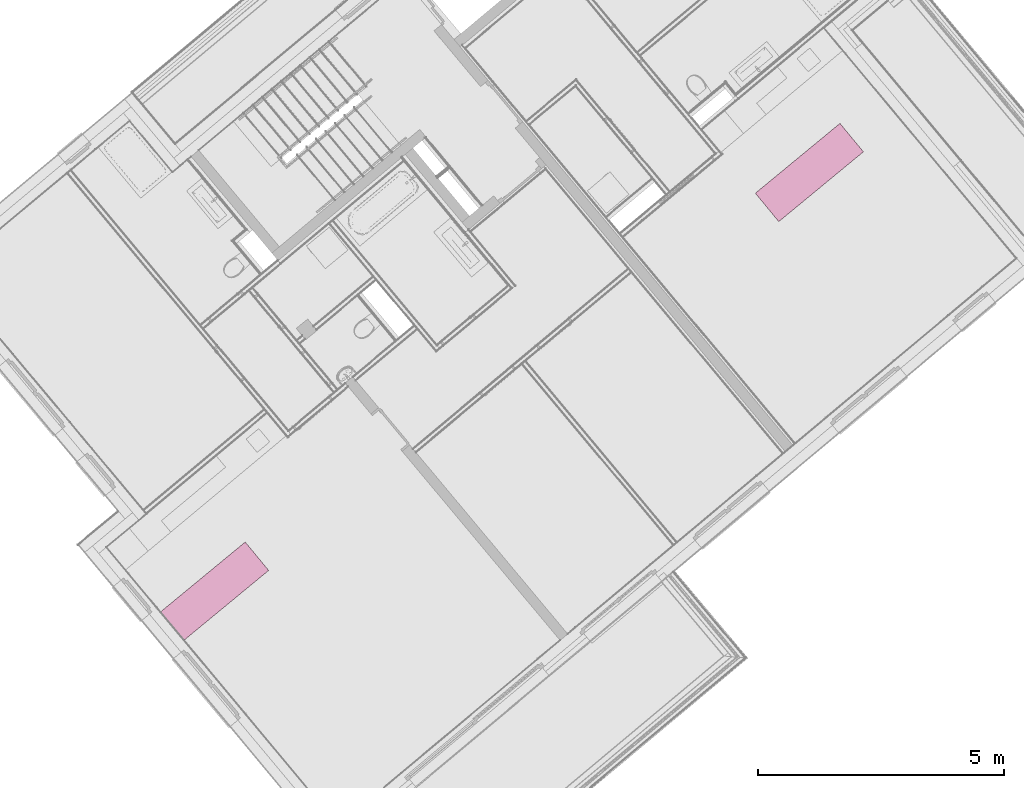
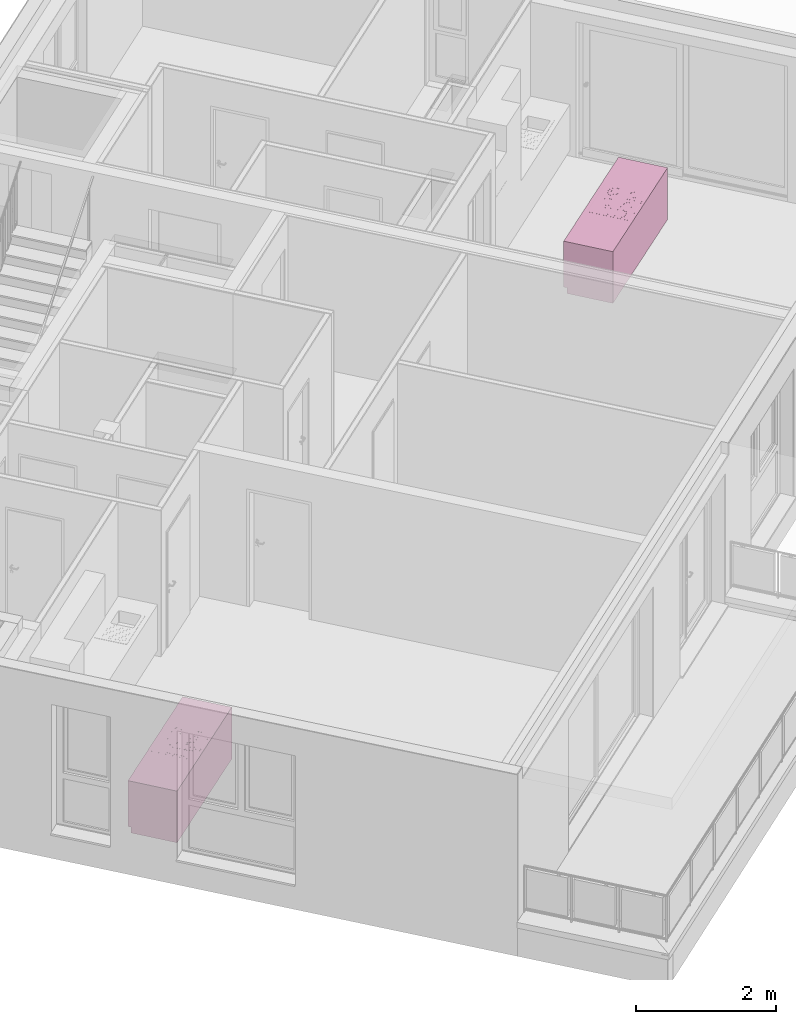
# One storey, part 51 of 53: 2 furniture elements.
"""IFC4 building model written with IfcOpenShell, lengths in metres."""

from ifc_helpers import new_model, entity, si_unit, converted_unit, derived_unit, direction, frame, origin_with_axes, place, context, subcontext, project, spatial, polygons, source, transform, mapped, type_object, element, save


model = new_model("IFC4")

# Units and contexts
model_context = context("Model", 3, precision=1e-05, world=origin_with_axes(), true_north=direction((0.0, 1.0)))
body_context = subcontext(model_context, "Body", "Model", "MODEL_VIEW")
ifc_project = project(units=[si_unit("LENGTHUNIT", "METRE"), si_unit("AREAUNIT", "SQUARE_METRE"), si_unit("VOLUMEUNIT", "CUBIC_METRE"), converted_unit("PLANEANGLEUNIT", "DEGREE", entity("IfcPlaneAngleMeasure", 0.0174532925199), si_unit("PLANEANGLEUNIT", "RADIAN"), dimensions=[0, 0, 0, 0, 0, 0, 0]), converted_unit("TIMEUNIT", "Year", entity("IfcTimeMeasure", 31556926.0), si_unit("TIMEUNIT", "SECOND"), dimensions=[0, 0, 1, 0, 0, 0, 0]), si_unit("MASSUNIT", "GRAM", prefix="KILO"), si_unit("THERMODYNAMICTEMPERATUREUNIT", "DEGREE_CELSIUS"), si_unit("LUMINOUSINTENSITYUNIT", "LUMEN"), si_unit("ENERGYUNIT", "JOULE", prefix="MEGA"), derived_unit("THERMALCONDUCTANCEUNIT", [(si_unit("POWERUNIT", "WATT"), 1), (si_unit("LENGTHUNIT", "METRE"), -1), (si_unit("THERMODYNAMICTEMPERATUREUNIT", "KELVIN"), -1)]), derived_unit("SPECIFICHEATCAPACITYUNIT", [(si_unit("ENERGYUNIT", "JOULE"), 1), (si_unit("MASSUNIT", "GRAM", prefix="KILO"), -1), (si_unit("THERMODYNAMICTEMPERATUREUNIT", "KELVIN"), -1)]), derived_unit("MASSDENSITYUNIT", [(si_unit("MASSUNIT", "GRAM", prefix="KILO"), 1), (si_unit("VOLUMEUNIT", "CUBIC_METRE"), -1)])], contexts=[model_context])

# Site, building, storey, space
site_placement = place(None, frame((-0.00153261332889, -0.00661245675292, 0.0), z_axis=(0.0, 0.0, 1.0), x_axis=(1.0, 0.0, 0.0)))
site = spatial("IfcSite", under=ifc_project, at=site_placement, Name="Gelände", CompositionType="ELEMENT")
building_placement = place(site_placement, origin_with_axes())
building = spatial("IfcBuilding", under=site, at=building_placement, Name="Gebäude", CompositionType="ELEMENT")
storey_placement = place(building_placement, frame((0.0, 0.0, 2.74), z_axis=(0.0, 0.0, 1.0), x_axis=(1.0, 0.0, 0.0)))
storey = spatial("IfcBuildingStorey", under=building, at=storey_placement, Name="OG1", CompositionType="ELEMENT", Elevation=2.74)
space_1_placement = place(storey_placement, frame((12.8063322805, 20.3315828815, 0.22), z_axis=(0.0, 0.0, 1.0), x_axis=(-0.641209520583, 0.767365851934, 0.0)))
space_1 = spatial("IfcSpace", under=storey, at=space_1_placement, CompositionType="ELEMENT", PredefinedType="NOTDEFINED")

# Furniture
furniture_type = type_object("IfcFurnitureType", Name="Konzeptküche 26", AssemblyPlace="NOTDEFINED", PredefinedType="NOTDEFINED")
shared_shape = source(origin_with_axes(), body_context, "Body", "Tessellation", [
    polygons([(0.451386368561, 0.0111886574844, 0.0), (2.6840690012, -0.00300580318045, 0.0), (2.6840690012, -0.00300580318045, 0.1), (0.451386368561, 0.0111886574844, 0.1), (0.455836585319, 0.711174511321, 0.0), (2.68851921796, 0.696980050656, 0.0), (2.68851921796, 0.696980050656, 0.1), (0.455836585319, 0.711174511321, 0.1)], [[[1, 2, 3, 4]], [[1, 5, 6, 2]], [[2, 6, 7, 3]], [[4, 3, 7, 8]], [[5, 1, 4, 8]], [[6, 5, 8, 7]]], closed=True),
    polygons([(0.451386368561, 0.0111886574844, 0.85), (2.6840690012, -0.00300580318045, 0.85), (2.6840690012, -0.00300580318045, 0.9), (0.451386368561, 0.0111886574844, 0.9), (0.456154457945, 0.76117350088, 0.85), (2.68883709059, 0.746979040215, 0.85), (2.68883709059, 0.746979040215, 0.9), (0.456154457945, 0.76117350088, 0.9)], [[[1, 2, 3, 4]], [[1, 5, 6, 2]], [[2, 6, 7, 3]], [[4, 3, 7, 8]], [[5, 1, 4, 8]], [[6, 5, 8, 7]]], closed=True),
    polygons([(0.451386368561, 0.0111886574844, 0.1), (2.6840690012, -0.00300580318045, 0.1), (2.6840690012, -0.00300580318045, 0.85), (0.451386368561, 0.0111886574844, 0.85), (0.456154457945, 0.76117350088, 0.1), (2.68883709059, 0.746979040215, 0.1), (2.68883709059, 0.746979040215, 0.85), (0.456154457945, 0.76117350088, 0.85)], [[[1, 2, 3, 4]], [[1, 5, 6, 2]], [[2, 6, 7, 3]], [[4, 3, 7, 8]], [[5, 1, 4, 8]], [[6, 5, 8, 7]]], closed=True),
    polygons([(2.01007115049, 0.701293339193, 0.9), (2.00593880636, 0.0513064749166, 0.9), (1.25595396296, 0.0560745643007, 0.9), (1.26008630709, 0.706061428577, 0.9), (2.01007115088, 0.70129333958, 0.9008), (2.00593880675, 0.0513064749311, 0.9008), (1.25595396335, 0.0560745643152, 0.9008), (1.26008630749, 0.706061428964, 0.9008), (2.00322248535, 0.694531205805, 0.901999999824), (1.99917667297, 0.0581551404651, 0.901999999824), (1.26280262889, 0.0628366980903, 0.901999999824), (1.26684844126, 0.69921276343, 0.901999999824)], [[[1, 2, 3, 4]], [[2, 1, 5, 6]], [[3, 2, 6, 7]], [[4, 3, 7, 8]], [[1, 4, 8, 5]], [[6, 5, 9, 10]], [[7, 6, 10, 11]], [[8, 7, 11, 12]], [[5, 8, 12, 9]], [[11, 10, 9, 12]]], closed=True),
    polygons([(1.95268579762, 0.208298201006, 0.902), (1.94734355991, 0.236077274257, 0.902), (1.94734355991, 0.236077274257, 0.903), (1.95268579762, 0.208298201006, 0.903), (1.9469907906, 0.180589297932, 0.902), (1.93112555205, 0.157168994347, 0.902), (1.9075054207, 0.141602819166, 0.902), (1.87972634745, 0.136260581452, 0.902), (1.85201744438, 0.141955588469, 0.902), (1.82859714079, 0.157820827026, 0.902), (1.81303096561, 0.181440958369, 0.902), (1.8076887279, 0.20922003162, 0.902), (1.81338373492, 0.236928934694, 0.902), (1.82924897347, 0.260349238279, 0.902), (1.85286910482, 0.275915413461, 0.902), (1.88064817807, 0.281257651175, 0.902), (1.90835708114, 0.275562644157, 0.902), (1.93177738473, 0.259697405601, 0.902), (1.94768589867, 0.208329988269, 0.902), (1.94271209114, 0.234193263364, 0.902), (1.92821944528, 0.256184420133, 0.902), (1.90641433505, 0.270955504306, 0.902), (1.8806163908, 0.276257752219, 0.902), (1.85475311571, 0.271283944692, 0.902), (1.83276195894, 0.256791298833, 0.902), (1.81799087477, 0.234986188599, 0.902), (1.81268862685, 0.209188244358, 0.902), (1.81766243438, 0.183324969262, 0.902), (1.83215508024, 0.161333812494, 0.902), (1.85396019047, 0.146562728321, 0.902), (1.87975813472, 0.141260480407, 0.902), (1.90562140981, 0.146234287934, 0.902), (1.92761256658, 0.160726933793, 0.902), (1.94238365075, 0.182532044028, 0.902), (1.93177738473, 0.259697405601, 0.903), (1.90835708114, 0.275562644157, 0.903), (1.88064817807, 0.281257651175, 0.903), (1.85286910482, 0.275915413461, 0.903), (1.82924897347, 0.260349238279, 0.903), (1.81338373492, 0.236928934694, 0.903), (1.8076887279, 0.20922003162, 0.903), (1.81303096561, 0.181440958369, 0.903), (1.82859714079, 0.157820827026, 0.903), (1.85201744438, 0.141955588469, 0.903), (1.87972634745, 0.136260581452, 0.903), (1.9075054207, 0.141602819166, 0.903), (1.93112555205, 0.157168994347, 0.903), (1.9469907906, 0.180589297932, 0.903), (1.94768589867, 0.208329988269, 0.903), (1.94238365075, 0.182532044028, 0.903), (1.92761256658, 0.160726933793, 0.903), (1.90562140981, 0.146234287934, 0.903), (1.87975813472, 0.141260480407, 0.903), (1.85396019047, 0.146562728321, 0.903), (1.83215508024, 0.161333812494, 0.903), (1.81766243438, 0.183324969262, 0.903), (1.81268862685, 0.209188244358, 0.903), (1.81799087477, 0.234986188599, 0.903), (1.83276195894, 0.256791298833, 0.903), (1.85475311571, 0.271283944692, 0.903), (1.8806163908, 0.276257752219, 0.903), (1.90641433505, 0.270955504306, 0.903), (1.92821944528, 0.256184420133, 0.903), (1.94271209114, 0.234193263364, 0.903)], [[[1, 2, 3, 4]], [[1, 5, 6, 7, 8, 9, 10, 11, 12, 13, 14, 15, 16, 17, 18, 2], [19, 20, 21, 22, 23, 24, 25, 26, 27, 28, 29, 30, 31, 32, 33, 34]], [[2, 18, 35, 3]], [[4, 3, 35, 36, 37, 38, 39, 40, 41, 42, 43, 44, 45, 46, 47, 48], [49, 50, 51, 52, 53, 54, 55, 56, 57, 58, 59, 60, 61, 62, 63, 64]], [[5, 1, 4, 48]], [[6, 5, 48, 47]], [[7, 6, 47, 46]], [[8, 7, 46, 45]], [[9, 8, 45, 44]], [[10, 9, 44, 43]], [[11, 10, 43, 42]], [[12, 11, 42, 41]], [[13, 12, 41, 40]], [[14, 13, 40, 39]], [[15, 14, 39, 38]], [[16, 15, 38, 37]], [[17, 16, 37, 36]], [[18, 17, 36, 35]], [[20, 19, 49, 64]], [[21, 20, 64, 63]], [[22, 21, 63, 62]], [[23, 22, 62, 61]], [[24, 23, 61, 60]], [[25, 24, 60, 59]], [[26, 25, 59, 58]], [[27, 26, 58, 57]], [[28, 27, 57, 56]], [[29, 28, 56, 55]], [[30, 29, 55, 54]], [[31, 30, 54, 53]], [[32, 31, 53, 52]], [[33, 32, 52, 51]], [[34, 33, 51, 50]], [[19, 34, 50, 49]]], closed=True),
    polygons([(1.9127590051, 0.495207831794, 0.902), (1.90833784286, 0.518197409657, 0.902), (1.90833784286, 0.518197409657, 0.903), (1.9127590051, 0.495207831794, 0.903), (1.90804589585, 0.472276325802, 0.902), (1.89491604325, 0.452894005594, 0.902), (1.87536834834, 0.44001165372, 0.902), (1.85237877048, 0.435590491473, 0.902), (1.82944726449, 0.440303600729, 0.902), (1.81006494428, 0.453433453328, 0.902), (1.7971825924, 0.472981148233, 0.902), (1.79276143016, 0.495970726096, 0.902), (1.79747453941, 0.518902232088, 0.902), (1.81060439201, 0.538284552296, 0.902), (1.83015208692, 0.551166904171, 0.902), (1.85314166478, 0.555588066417, 0.902), (1.87607317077, 0.550874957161, 0.902), (1.89545549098, 0.537745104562, 0.902), (1.90775910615, 0.495239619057, 0.902), (1.90370637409, 0.516313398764, 0.902), (1.89189755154, 0.534232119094, 0.902), (1.87413042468, 0.546267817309, 0.902), (1.85310987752, 0.550588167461, 0.902), (1.83203609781, 0.546535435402, 0.902), (1.81411737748, 0.53472661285, 0.902), (1.80208167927, 0.516959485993, 0.902), (1.79776132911, 0.495938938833, 0.902), (1.80181406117, 0.474865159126, 0.902), (1.81362288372, 0.456946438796, 0.902), (1.83139001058, 0.444910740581, 0.902), (1.85241055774, 0.440590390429, 0.902), (1.87348433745, 0.444643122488, 0.902), (1.89140305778, 0.45645194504, 0.902), (1.90343875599, 0.474219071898, 0.902), (1.89545549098, 0.537745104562, 0.903), (1.87607317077, 0.550874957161, 0.903), (1.85314166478, 0.555588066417, 0.903), (1.83015208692, 0.551166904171, 0.903), (1.81060439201, 0.538284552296, 0.903), (1.79747453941, 0.518902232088, 0.903), (1.79276143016, 0.495970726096, 0.903), (1.7971825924, 0.472981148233, 0.903), (1.81006494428, 0.453433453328, 0.903), (1.82944726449, 0.440303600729, 0.903), (1.85237877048, 0.435590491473, 0.903), (1.87536834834, 0.44001165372, 0.903), (1.89491604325, 0.452894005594, 0.903), (1.90804589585, 0.472276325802, 0.903), (1.90775910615, 0.495239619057, 0.903), (1.90343875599, 0.474219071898, 0.903), (1.89140305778, 0.45645194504, 0.903), (1.87348433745, 0.444643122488, 0.903), (1.85241055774, 0.440590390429, 0.903), (1.83139001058, 0.444910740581, 0.903), (1.81362288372, 0.456946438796, 0.903), (1.80181406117, 0.474865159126, 0.903), (1.79776132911, 0.495938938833, 0.903), (1.80208167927, 0.516959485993, 0.903), (1.81411737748, 0.53472661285, 0.903), (1.83203609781, 0.546535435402, 0.903), (1.85310987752, 0.550588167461, 0.903), (1.87413042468, 0.546267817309, 0.903), (1.89189755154, 0.534232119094, 0.903), (1.90370637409, 0.516313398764, 0.903)], [[[1, 2, 3, 4]], [[1, 5, 6, 7, 8, 9, 10, 11, 12, 13, 14, 15, 16, 17, 18, 2], [19, 20, 21, 22, 23, 24, 25, 26, 27, 28, 29, 30, 31, 32, 33, 34]], [[2, 18, 35, 3]], [[4, 3, 35, 36, 37, 38, 39, 40, 41, 42, 43, 44, 45, 46, 47, 48], [49, 50, 51, 52, 53, 54, 55, 56, 57, 58, 59, 60, 61, 62, 63, 64]], [[5, 1, 4, 48]], [[6, 5, 48, 47]], [[7, 6, 47, 46]], [[8, 7, 46, 45]], [[9, 8, 45, 44]], [[10, 9, 44, 43]], [[11, 10, 43, 42]], [[12, 11, 42, 41]], [[13, 12, 41, 40]], [[14, 13, 40, 39]], [[15, 14, 39, 38]], [[16, 15, 38, 37]], [[17, 16, 37, 36]], [[18, 17, 36, 35]], [[20, 19, 49, 64]], [[21, 20, 64, 63]], [[22, 21, 63, 62]], [[23, 22, 62, 61]], [[24, 23, 61, 60]], [[25, 24, 60, 59]], [[26, 25, 59, 58]], [[27, 26, 58, 57]], [[28, 27, 57, 56]], [[29, 28, 56, 55]], [[30, 29, 55, 54]], [[31, 30, 54, 53]], [[32, 31, 53, 52]], [[33, 32, 52, 51]], [[34, 33, 51, 50]], [[19, 34, 50, 49]]], closed=True),
    polygons([(1.95775809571, 0.494921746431, 0.902), (1.95002106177, 0.535153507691, 0.902), (1.95002106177, 0.535153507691, 0.903), (1.95775809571, 0.494921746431, 0.903), (1.94951015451, 0.454791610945, 0.902), (1.92653291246, 0.420872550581, 0.902), (1.89232444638, 0.3983284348, 0.902), (1.85209268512, 0.39059140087, 0.902), (1.81196254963, 0.398839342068, 0.902), (1.77804348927, 0.421816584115, 0.902), (1.75549937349, 0.456025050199, 0.902), (1.74776233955, 0.496256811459, 0.902), (1.75601028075, 0.536386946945, 0.902), (1.7789875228, 0.57030600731, 0.902), (1.81319598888, 0.59285012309, 0.902), (1.85342775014, 0.60058715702, 0.902), (1.89355788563, 0.592339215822, 0.902), (1.92747694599, 0.569361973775, 0.902), (1.95275819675, 0.494953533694, 0.902), (1.94538959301, 0.533269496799, 0.902), (1.92391900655, 0.565848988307, 0.902), (1.89161513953, 0.587732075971, 0.902), (1.85339596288, 0.595587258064, 0.902), (1.81507999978, 0.588218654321, 0.902), (1.78250050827, 0.566748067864, 0.902), (1.7606174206, 0.53444420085, 0.902), (1.75276223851, 0.496225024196, 0.902), (1.76013084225, 0.457909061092, 0.902), (1.78160142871, 0.425329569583, 0.902), (1.81390529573, 0.403446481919, 0.902), (1.85212447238, 0.395591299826, 0.902), (1.89044043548, 0.402959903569, 0.902), (1.92301992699, 0.424430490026, 0.902), (1.94490301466, 0.456734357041, 0.902), (1.92747694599, 0.569361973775, 0.903), (1.89355788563, 0.592339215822, 0.903), (1.85342775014, 0.60058715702, 0.903), (1.81319598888, 0.59285012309, 0.903), (1.7789875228, 0.57030600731, 0.903), (1.75601028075, 0.536386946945, 0.903), (1.74776233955, 0.496256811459, 0.903), (1.75549937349, 0.456025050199, 0.903), (1.77804348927, 0.421816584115, 0.903), (1.81196254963, 0.398839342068, 0.903), (1.85209268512, 0.39059140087, 0.903), (1.89232444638, 0.3983284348, 0.903), (1.92653291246, 0.420872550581, 0.903), (1.94951015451, 0.454791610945, 0.903), (1.95275819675, 0.494953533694, 0.903), (1.94490301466, 0.456734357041, 0.903), (1.92301992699, 0.424430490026, 0.903), (1.89044043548, 0.402959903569, 0.903), (1.85212447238, 0.395591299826, 0.903), (1.81390529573, 0.403446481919, 0.903), (1.78160142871, 0.425329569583, 0.903), (1.76013084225, 0.457909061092, 0.903), (1.75276223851, 0.496225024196, 0.903), (1.7606174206, 0.53444420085, 0.903), (1.78250050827, 0.566748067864, 0.903), (1.81507999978, 0.588218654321, 0.903), (1.85339596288, 0.595587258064, 0.903), (1.89161513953, 0.587732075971, 0.903), (1.92391900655, 0.565848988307, 0.903), (1.94538959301, 0.533269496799, 0.903)], [[[1, 2, 3, 4]], [[1, 5, 6, 7, 8, 9, 10, 11, 12, 13, 14, 15, 16, 17, 18, 2], [19, 20, 21, 22, 23, 24, 25, 26, 27, 28, 29, 30, 31, 32, 33, 34]], [[2, 18, 35, 3]], [[4, 3, 35, 36, 37, 38, 39, 40, 41, 42, 43, 44, 45, 46, 47, 48], [49, 50, 51, 52, 53, 54, 55, 56, 57, 58, 59, 60, 61, 62, 63, 64]], [[5, 1, 4, 48]], [[6, 5, 48, 47]], [[7, 6, 47, 46]], [[8, 7, 46, 45]], [[9, 8, 45, 44]], [[10, 9, 44, 43]], [[11, 10, 43, 42]], [[12, 11, 42, 41]], [[13, 12, 41, 40]], [[14, 13, 40, 39]], [[15, 14, 39, 38]], [[16, 15, 38, 37]], [[17, 16, 37, 36]], [[18, 17, 36, 35]], [[20, 19, 49, 64]], [[21, 20, 64, 63]], [[22, 21, 63, 62]], [[23, 22, 62, 61]], [[24, 23, 61, 60]], [[25, 24, 60, 59]], [[26, 25, 59, 58]], [[27, 26, 58, 57]], [[28, 27, 57, 56]], [[29, 28, 56, 55]], [[30, 29, 55, 54]], [[31, 30, 54, 53]], [[32, 31, 53, 52]], [[33, 32, 52, 51]], [[34, 33, 51, 50]], [[19, 34, 50, 49]]], closed=True),
    polygons([(1.67867067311, 0.206790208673, 0.902), (1.67351265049, 0.233611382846, 0.902), (1.67351265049, 0.233611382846, 0.903), (1.67867067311, 0.206790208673, 0.903), (1.67317204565, 0.180036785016, 0.902), (1.65785388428, 0.157424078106, 0.902), (1.63504824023, 0.142394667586, 0.902), (1.60822706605, 0.137236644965, 0.902), (1.5814736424, 0.142735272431, 0.902), (1.55886093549, 0.158053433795, 0.902), (1.54383152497, 0.180859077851, 0.902), (1.53867350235, 0.207680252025, 0.902), (1.54417212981, 0.234433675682, 0.902), (1.55949029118, 0.257046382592, 0.902), (1.58229593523, 0.272075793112, 0.902), (1.60911710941, 0.277233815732, 0.902), (1.63587053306, 0.271735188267, 0.902), (1.65848323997, 0.256417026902, 0.902), (1.67367077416, 0.206821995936, 0.902), (1.66888118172, 0.231727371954, 0.902), (1.65492530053, 0.252904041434, 0.902), (1.63392778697, 0.267128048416, 0.902), (1.60908532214, 0.272233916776, 0.902), (1.58417994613, 0.267444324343, 0.902), (1.56300327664, 0.253488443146, 0.902), (1.54877926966, 0.232490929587, 0.902), (1.5436734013, 0.207648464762, 0.902), (1.54846299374, 0.182743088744, 0.902), (1.56241887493, 0.161566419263, 0.902), (1.58341638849, 0.147342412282, 0.902), (1.60825885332, 0.142236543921, 0.902), (1.63316422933, 0.147026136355, 0.902), (1.65434089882, 0.160982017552, 0.902), (1.6685649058, 0.181979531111, 0.902), (1.65848323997, 0.256417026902, 0.903), (1.63587053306, 0.271735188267, 0.903), (1.60911710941, 0.277233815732, 0.903), (1.58229593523, 0.272075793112, 0.903), (1.55949029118, 0.257046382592, 0.903), (1.54417212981, 0.234433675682, 0.903), (1.53867350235, 0.207680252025, 0.903), (1.54383152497, 0.180859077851, 0.903), (1.55886093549, 0.158053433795, 0.903), (1.5814736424, 0.142735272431, 0.903), (1.60822706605, 0.137236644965, 0.903), (1.63504824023, 0.142394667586, 0.903), (1.65785388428, 0.157424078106, 0.903), (1.67317204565, 0.180036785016, 0.903), (1.67367077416, 0.206821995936, 0.903), (1.6685649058, 0.181979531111, 0.903), (1.65434089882, 0.160982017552, 0.903), (1.63316422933, 0.147026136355, 0.903), (1.60825885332, 0.142236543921, 0.903), (1.58341638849, 0.147342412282, 0.903), (1.56241887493, 0.161566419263, 0.903), (1.54846299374, 0.182743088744, 0.903), (1.5436734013, 0.207648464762, 0.903), (1.54877926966, 0.232490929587, 0.903), (1.56300327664, 0.253488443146, 0.903), (1.58417994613, 0.267444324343, 0.903), (1.60908532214, 0.272233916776, 0.903), (1.63392778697, 0.267128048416, 0.903), (1.65492530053, 0.252904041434, 0.903), (1.66888118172, 0.231727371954, 0.903)], [[[1, 2, 3, 4]], [[1, 5, 6, 7, 8, 9, 10, 11, 12, 13, 14, 15, 16, 17, 18, 2], [19, 20, 21, 22, 23, 24, 25, 26, 27, 28, 29, 30, 31, 32, 33, 34]], [[2, 18, 35, 3]], [[4, 3, 35, 36, 37, 38, 39, 40, 41, 42, 43, 44, 45, 46, 47, 48], [49, 50, 51, 52, 53, 54, 55, 56, 57, 58, 59, 60, 61, 62, 63, 64]], [[5, 1, 4, 48]], [[6, 5, 48, 47]], [[7, 6, 47, 46]], [[8, 7, 46, 45]], [[9, 8, 45, 44]], [[10, 9, 44, 43]], [[11, 10, 43, 42]], [[12, 11, 42, 41]], [[13, 12, 41, 40]], [[14, 13, 40, 39]], [[15, 14, 39, 38]], [[16, 15, 38, 37]], [[17, 16, 37, 36]], [[18, 17, 36, 35]], [[20, 19, 49, 64]], [[21, 20, 64, 63]], [[22, 21, 63, 62]], [[23, 22, 62, 61]], [[24, 23, 61, 60]], [[25, 24, 60, 59]], [[26, 25, 59, 58]], [[27, 26, 58, 57]], [[28, 27, 57, 56]], [[29, 28, 56, 55]], [[30, 29, 55, 54]], [[31, 30, 54, 53]], [[32, 31, 53, 52]], [[33, 32, 52, 51]], [[34, 33, 51, 50]], [[19, 34, 50, 49]]], closed=True),
    polygons([(1.67698381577, 0.511657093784, 0.902), (1.6703520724, 0.546141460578, 0.902), (1.6703520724, 0.546141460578, 0.903), (1.67698381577, 0.511657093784, 0.903), (1.66991415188, 0.477259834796, 0.902), (1.65021937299, 0.448186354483, 0.902), (1.62089783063, 0.428862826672, 0.902), (1.58641346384, 0.422231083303, 0.902), (1.55201620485, 0.429300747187, 0.902), (1.52294272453, 0.448995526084, 0.902), (1.50361919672, 0.478317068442, 0.902), (1.49698745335, 0.512801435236, 0.902), (1.50405711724, 0.547198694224, 0.902), (1.52375189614, 0.576272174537, 0.902), (1.55307343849, 0.595595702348, 0.902), (1.58755780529, 0.602227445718, 0.902), (1.62195506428, 0.595157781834, 0.902), (1.65102854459, 0.575463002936, 0.902), (1.67198391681, 0.511688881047, 0.902), (1.66572060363, 0.544257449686, 0.902), (1.64747060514, 0.571950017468, 0.902), (1.62001231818, 0.590550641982, 0.902), (1.58752601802, 0.597227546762, 0.902), (1.55495744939, 0.590964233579, 0.902), (1.5272648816, 0.572714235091, 0.902), (1.50866425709, 0.545255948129, 0.902), (1.50198735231, 0.512769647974, 0.902), (1.50825066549, 0.480201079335, 0.902), (1.52650066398, 0.452508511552, 0.902), (1.55395895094, 0.433907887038, 0.902), (1.5864452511, 0.427230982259, 0.902), (1.61901381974, 0.433494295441, 0.902), (1.64670638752, 0.451744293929, 0.902), (1.66530701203, 0.479202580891, 0.902), (1.65102854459, 0.575463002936, 0.903), (1.62195506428, 0.595157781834, 0.903), (1.58755780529, 0.602227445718, 0.903), (1.55307343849, 0.595595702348, 0.903), (1.52375189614, 0.576272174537, 0.903), (1.50405711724, 0.547198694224, 0.903), (1.49698745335, 0.512801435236, 0.903), (1.50361919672, 0.478317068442, 0.903), (1.52294272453, 0.448995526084, 0.903), (1.55201620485, 0.429300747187, 0.903), (1.58641346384, 0.422231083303, 0.903), (1.62089783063, 0.428862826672, 0.903), (1.65021937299, 0.448186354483, 0.903), (1.66991415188, 0.477259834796, 0.903), (1.67198391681, 0.511688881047, 0.903), (1.66530701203, 0.479202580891, 0.903), (1.64670638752, 0.451744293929, 0.903), (1.61901381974, 0.433494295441, 0.903), (1.5864452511, 0.427230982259, 0.903), (1.55395895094, 0.433907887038, 0.903), (1.52650066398, 0.452508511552, 0.903), (1.50825066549, 0.480201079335, 0.903), (1.50198735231, 0.512769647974, 0.903), (1.50866425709, 0.545255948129, 0.903), (1.5272648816, 0.572714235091, 0.903), (1.55495744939, 0.590964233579, 0.903), (1.58752601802, 0.597227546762, 0.903), (1.62001231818, 0.590550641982, 0.903), (1.64747060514, 0.571950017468, 0.903), (1.66572060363, 0.544257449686, 0.903)], [[[1, 2, 3, 4]], [[1, 5, 6, 7, 8, 9, 10, 11, 12, 13, 14, 15, 16, 17, 18, 2], [19, 20, 21, 22, 23, 24, 25, 26, 27, 28, 29, 30, 31, 32, 33, 34]], [[2, 18, 35, 3]], [[4, 3, 35, 36, 37, 38, 39, 40, 41, 42, 43, 44, 45, 46, 47, 48], [49, 50, 51, 52, 53, 54, 55, 56, 57, 58, 59, 60, 61, 62, 63, 64]], [[5, 1, 4, 48]], [[6, 5, 48, 47]], [[7, 6, 47, 46]], [[8, 7, 46, 45]], [[9, 8, 45, 44]], [[10, 9, 44, 43]], [[11, 10, 43, 42]], [[12, 11, 42, 41]], [[13, 12, 41, 40]], [[14, 13, 40, 39]], [[15, 14, 39, 38]], [[16, 15, 38, 37]], [[17, 16, 37, 36]], [[18, 17, 36, 35]], [[20, 19, 49, 64]], [[21, 20, 64, 63]], [[22, 21, 63, 62]], [[23, 22, 62, 61]], [[24, 23, 61, 60]], [[25, 24, 60, 59]], [[26, 25, 59, 58]], [[27, 26, 58, 57]], [[28, 27, 57, 56]], [[29, 28, 56, 55]], [[30, 29, 55, 54]], [[31, 30, 54, 53]], [[32, 31, 53, 52]], [[33, 32, 52, 51]], [[34, 33, 51, 50]], [[19, 34, 50, 49]]], closed=True),
    polygons([(1.72815115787, 0.294201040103, 0.902), (1.49030841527, 0.295713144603, 0.902), (1.49030841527, 0.295713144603, 0.903), (1.72815115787, 0.294201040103, 0.903), (1.73655937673, 0.292472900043, 0.902), (1.74366622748, 0.287658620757, 0.902), (1.7483897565, 0.280491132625, 0.902), (1.75001084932, 0.272061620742, 0.902), (1.74917517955, 0.140617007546, 0.902), (1.74744703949, 0.132208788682, 0.902), (1.7426327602, 0.125101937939, 0.902), (1.73546527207, 0.120378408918, 0.902), (1.72703576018, 0.118757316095, 0.902), (1.48919301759, 0.120269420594, 0.902), (1.48078479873, 0.121997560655, 0.902), (1.47367794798, 0.126811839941, 0.902), (1.46895441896, 0.133979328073, 0.902), (1.46733332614, 0.142408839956, 0.902), (1.46816899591, 0.273853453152, 0.902), (1.46989713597, 0.282261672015, 0.902), (1.47471141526, 0.289368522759, 0.902), (1.48187890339, 0.294092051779, 0.902), (1.72406760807, 0.123776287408, 0.902), (1.73173080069, 0.125250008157, 0.902), (1.738246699, 0.129544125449, 0.902), (1.74262331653, 0.136004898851, 0.902), (1.74419435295, 0.143648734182, 0.902), (1.74499187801, 0.269093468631, 0.902), (1.74351815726, 0.276756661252, 0.902), (1.73922403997, 0.283272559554, 0.902), (1.73276326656, 0.287649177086, 0.902), (1.72511943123, 0.289220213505, 0.902), (1.49327656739, 0.290694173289, 0.902), (1.48561337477, 0.28922045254, 0.902), (1.47909747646, 0.284926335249, 0.902), (1.47472085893, 0.278465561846, 0.902), (1.47314982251, 0.270821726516, 0.902), (1.47235229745, 0.145376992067, 0.902), (1.4738260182, 0.137713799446, 0.902), (1.47812013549, 0.131197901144, 0.902), (1.4845809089, 0.126821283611, 0.902), (1.49222474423, 0.125250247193, 0.902), (1.48187890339, 0.294092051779, 0.903), (1.47471141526, 0.289368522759, 0.903), (1.46989713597, 0.282261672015, 0.903), (1.46816899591, 0.273853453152, 0.903), (1.46733332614, 0.142408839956, 0.903), (1.46895441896, 0.133979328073, 0.903), (1.47367794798, 0.126811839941, 0.903), (1.48078479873, 0.121997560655, 0.903), (1.48919301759, 0.120269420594, 0.903), (1.72703576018, 0.118757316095, 0.903), (1.73546527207, 0.120378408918, 0.903), (1.7426327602, 0.125101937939, 0.903), (1.74744703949, 0.132208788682, 0.903), (1.74917517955, 0.140617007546, 0.903), (1.75001084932, 0.272061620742, 0.903), (1.7483897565, 0.280491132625, 0.903), (1.74366622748, 0.287658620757, 0.903), (1.73655937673, 0.292472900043, 0.903), (1.72406760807, 0.123776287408, 0.903), (1.49222474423, 0.125250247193, 0.903), (1.4845809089, 0.126821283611, 0.903), (1.47812013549, 0.131197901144, 0.903), (1.4738260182, 0.137713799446, 0.903), (1.47235229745, 0.145376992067, 0.903), (1.47314982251, 0.270821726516, 0.903), (1.47472085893, 0.278465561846, 0.903), (1.47909747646, 0.284926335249, 0.903), (1.48561337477, 0.28922045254, 0.903), (1.49327656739, 0.290694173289, 0.903), (1.72511943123, 0.289220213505, 0.903), (1.73276326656, 0.287649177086, 0.903), (1.73922403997, 0.283272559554, 0.903), (1.74351815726, 0.276756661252, 0.903), (1.74499187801, 0.269093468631, 0.903), (1.74419435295, 0.143648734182, 0.903), (1.74262331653, 0.136004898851, 0.903), (1.738246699, 0.129544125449, 0.903), (1.73173080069, 0.125250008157, 0.903)], [[[1, 2, 3, 4]], [[1, 5, 6, 7, 8, 9, 10, 11, 12, 13, 14, 15, 16, 17, 18, 19, 20, 21, 22, 2], [23, 24, 25, 26, 27, 28, 29, 30, 31, 32, 33, 34, 35, 36, 37, 38, 39, 40, 41, 42]], [[2, 22, 43, 3]], [[4, 3, 43, 44, 45, 46, 47, 48, 49, 50, 51, 52, 53, 54, 55, 56, 57, 58, 59, 60], [61, 62, 63, 64, 65, 66, 67, 68, 69, 70, 71, 72, 73, 74, 75, 76, 77, 78, 79, 80]], [[5, 1, 4, 60]], [[6, 5, 60, 59]], [[7, 6, 59, 58]], [[8, 7, 58, 57]], [[9, 8, 57, 56]], [[10, 9, 56, 55]], [[11, 10, 55, 54]], [[12, 11, 54, 53]], [[13, 12, 53, 52]], [[14, 13, 52, 51]], [[15, 14, 51, 50]], [[16, 15, 50, 49]], [[17, 16, 49, 48]], [[18, 17, 48, 47]], [[19, 18, 47, 46]], [[20, 19, 46, 45]], [[21, 20, 45, 44]], [[22, 21, 44, 43]], [[24, 23, 61, 80]], [[25, 24, 80, 79]], [[26, 25, 79, 78]], [[27, 26, 78, 77]], [[28, 27, 77, 76]], [[29, 28, 76, 75]], [[30, 29, 75, 74]], [[31, 30, 74, 73]], [[32, 31, 73, 72]], [[33, 32, 72, 71]], [[34, 33, 71, 70]], [[35, 34, 70, 69]], [[36, 35, 69, 68]], [[37, 36, 68, 67]], [[38, 37, 67, 66]], [[39, 38, 66, 65]], [[40, 39, 65, 64]], [[41, 40, 64, 63]], [[42, 41, 63, 62]], [[23, 42, 62, 61]]], closed=True),
    polygons([(1.45676176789, 0.182500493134, 0.902), (1.45859271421, 0.470494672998, 0.902), (1.45859271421, 0.470494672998, 0.903), (1.45676176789, 0.182500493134, 0.903), (1.45471942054, 0.172563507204, 0.902), (1.44902981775, 0.16416450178, 0.902), (1.44055914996, 0.158582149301, 0.902), (1.43059699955, 0.156666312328, 0.902), (1.3225991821, 0.157352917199, 0.902), (1.31266219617, 0.159395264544, 0.902), (1.30426319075, 0.165084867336, 0.902), (1.29868083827, 0.173555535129, 0.902), (1.2967650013, 0.183517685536, 0.902), (1.29859594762, 0.4715118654, 0.902), (1.30063829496, 0.48144885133, 0.902), (1.30632789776, 0.489847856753, 0.902), (1.31479856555, 0.495430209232, 0.902), (1.32476071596, 0.497346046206, 0.902), (1.4327585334, 0.496659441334, 0.902), (1.44269551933, 0.49461709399, 0.902), (1.45109452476, 0.488927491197, 0.902), (1.45667687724, 0.480456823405, 0.902), (1.42562888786, 0.161697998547, 0.902), (1.43559103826, 0.16361383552, 0.902), (1.44406170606, 0.169196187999, 0.902), (1.44975130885, 0.177595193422, 0.902), (1.45179365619, 0.187532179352, 0.902), (1.45356102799, 0.465526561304, 0.902), (1.45164519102, 0.475488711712, 0.902), (1.44606283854, 0.483959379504, 0.902), (1.43766383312, 0.489648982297, 0.902), (1.42772684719, 0.491691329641, 0.902), (1.32972882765, 0.492314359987, 0.902), (1.31976667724, 0.490398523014, 0.902), (1.31129600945, 0.484816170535, 0.902), (1.30560640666, 0.476417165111, 0.902), (1.30356405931, 0.466480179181, 0.902), (1.30179668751, 0.188485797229, 0.902), (1.30371252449, 0.178523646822, 0.902), (1.30929487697, 0.17005297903, 0.902), (1.31769388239, 0.164363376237, 0.902), (1.32763086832, 0.162321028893, 0.902), (1.45667687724, 0.480456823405, 0.903), (1.45109452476, 0.488927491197, 0.903), (1.44269551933, 0.49461709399, 0.903), (1.4327585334, 0.496659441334, 0.903), (1.32476071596, 0.497346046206, 0.903), (1.31479856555, 0.495430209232, 0.903), (1.30632789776, 0.489847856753, 0.903), (1.30063829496, 0.48144885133, 0.903), (1.29859594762, 0.4715118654, 0.903), (1.2967650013, 0.183517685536, 0.903), (1.29868083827, 0.173555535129, 0.903), (1.30426319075, 0.165084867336, 0.903), (1.31266219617, 0.159395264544, 0.903), (1.3225991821, 0.157352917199, 0.903), (1.43059699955, 0.156666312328, 0.903), (1.44055914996, 0.158582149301, 0.903), (1.44902981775, 0.16416450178, 0.903), (1.45471942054, 0.172563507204, 0.903), (1.42562888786, 0.161697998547, 0.903), (1.32763086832, 0.162321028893, 0.903), (1.31769388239, 0.164363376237, 0.903), (1.30929487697, 0.17005297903, 0.903), (1.30371252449, 0.178523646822, 0.903), (1.30179668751, 0.188485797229, 0.903), (1.30356405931, 0.466480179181, 0.903), (1.30560640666, 0.476417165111, 0.903), (1.31129600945, 0.484816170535, 0.903), (1.31976667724, 0.490398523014, 0.903), (1.32972882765, 0.492314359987, 0.903), (1.42772684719, 0.491691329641, 0.903), (1.43766383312, 0.489648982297, 0.903), (1.44606283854, 0.483959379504, 0.903), (1.45164519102, 0.475488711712, 0.903), (1.45356102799, 0.465526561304, 0.903), (1.45179365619, 0.187532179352, 0.903), (1.44975130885, 0.177595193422, 0.903), (1.44406170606, 0.169196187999, 0.903), (1.43559103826, 0.16361383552, 0.903)], [[[1, 2, 3, 4]], [[1, 5, 6, 7, 8, 9, 10, 11, 12, 13, 14, 15, 16, 17, 18, 19, 20, 21, 22, 2], [23, 24, 25, 26, 27, 28, 29, 30, 31, 32, 33, 34, 35, 36, 37, 38, 39, 40, 41, 42]], [[2, 22, 43, 3]], [[4, 3, 43, 44, 45, 46, 47, 48, 49, 50, 51, 52, 53, 54, 55, 56, 57, 58, 59, 60], [61, 62, 63, 64, 65, 66, 67, 68, 69, 70, 71, 72, 73, 74, 75, 76, 77, 78, 79, 80]], [[5, 1, 4, 60]], [[6, 5, 60, 59]], [[7, 6, 59, 58]], [[8, 7, 58, 57]], [[9, 8, 57, 56]], [[10, 9, 56, 55]], [[11, 10, 55, 54]], [[12, 11, 54, 53]], [[13, 12, 53, 52]], [[14, 13, 52, 51]], [[15, 14, 51, 50]], [[16, 15, 50, 49]], [[17, 16, 49, 48]], [[18, 17, 48, 47]], [[19, 18, 47, 46]], [[20, 19, 46, 45]], [[21, 20, 45, 44]], [[22, 21, 44, 43]], [[24, 23, 61, 80]], [[25, 24, 80, 79]], [[26, 25, 79, 78]], [[27, 26, 78, 77]], [[28, 27, 77, 76]], [[29, 28, 76, 75]], [[30, 29, 75, 74]], [[31, 30, 74, 73]], [[32, 31, 73, 72]], [[33, 32, 72, 71]], [[34, 33, 71, 70]], [[35, 34, 70, 69]], [[36, 35, 69, 68]], [[37, 36, 68, 67]], [[38, 37, 67, 66]], [[39, 38, 66, 65]], [[40, 39, 65, 64]], [[41, 40, 64, 63]], [[42, 41, 63, 62]], [[23, 42, 62, 61]]], closed=True),
])
furniture_1_placement = place(space_1_placement, frame((3.66181901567, 3.68306285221, 0.0), z_axis=(0.0, 0.0, 1.0), x_axis=(0.0, -1.0, 0.0)))
element("IfcFurniture", 1, at=furniture_1_placement, inside=space_1, type_object=furniture_type, Name="Objekt-0002", PredefinedType="NOTDEFINED", context=body_context, shape_type="MappedRepresentation", body=[
    mapped(shared_shape, transform((0.0, 0.0, 0.0))),
])

# Space
space_2_placement = place(storey_placement, frame((-4.88747385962, 15.1309660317, 0.22), z_axis=(0.0, 0.0, 1.0), x_axis=(-0.768971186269, -0.639283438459, 0.0)))
space_2 = spatial("IfcSpace", under=storey, at=space_2_placement, CompositionType="ELEMENT", PredefinedType="NOTDEFINED")

# Furniture
furniture_2_placement = place(space_2_placement, frame((1.51244049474, 2.47341594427, 0.0), z_axis=(0.0, 0.0, 1.0), x_axis=(-0.999996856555, -0.00250736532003, 0.0)))
element("IfcFurniture", 2, at=furniture_2_placement, inside=space_2, type_object=furniture_type, Name="Objekt-0002", PredefinedType="NOTDEFINED", context=body_context, shape_type="MappedRepresentation", body=[
    mapped(shared_shape, transform((0.0, 0.0, 0.0))),
])

save(model, "model.ifc")
